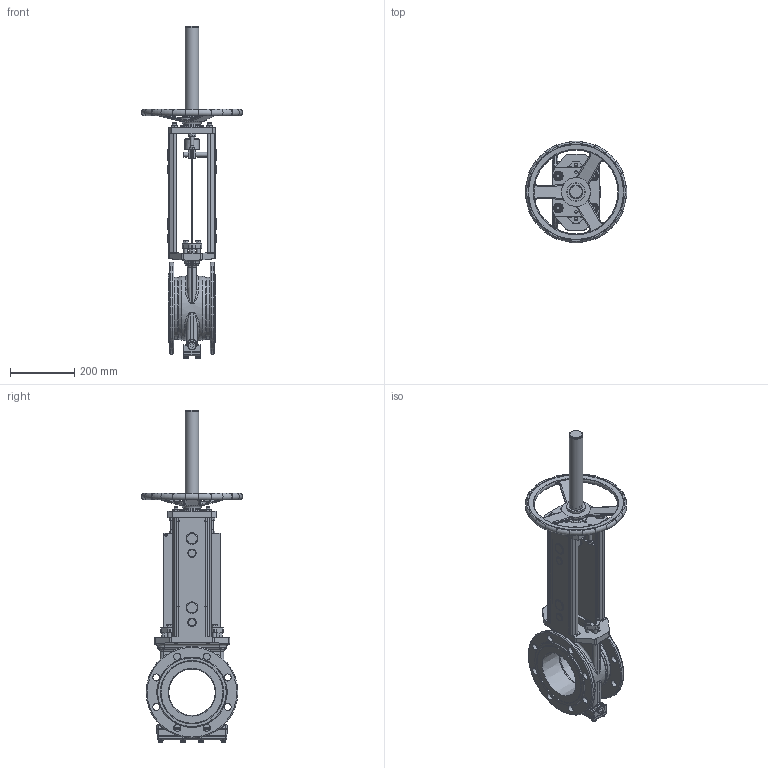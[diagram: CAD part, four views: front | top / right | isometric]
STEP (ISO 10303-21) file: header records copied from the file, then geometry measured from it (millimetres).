
FILE_DESCRIPTION(/* description */ (''),/* implementation_level */ '2;1');
FILE_NAME(/* name */ 'F:\3D-block färdiga för export\SLV-SLF\DN 150\SLF-DN150-PN10-HW-Rising_stem.stp',/* time_stamp */ '2014-07-02T14:01:25+02:00',/* author */ ('emimus'),/* organization */ (''),/* preprocessor_version */ 'ST-DEVELOPER v15.6',/* originating_system */ 'Autodesk Inventor 2015',/* authorisation */ '');
FILE_SCHEMA (('CONFIG_CONTROL_DESIGN'));
Length unit declared in the file: millimetre
Products named in the file (2): 17; SLF-DN150-PN10-HW-Rising_stem
Bounding box: 316.7 x 316.7 x 1033.15 mm (x, y, z)
Volume: 7041457.9 mm3; surface area: 1346091.2 mm2
Topology: 1 solids, 1 shells, 1348 faces, 3377 edges, 2096 vertices
Faces by surface type: plane 568, cylinder 316, cone 258, bspline 102, torus 92, sphere 12
Full cylindrical faces by diameter (mm): 3.7 x8, 4 x2, 5 x4, 7 x1, 8.5 x2, 10 x10, 10.5 x4, 12 x10, 13 x3, 13.435 x4, 14 x4, 15 x4, 16 x8, 18 x4, 18.5 x1, 18.6 x1, 20 x4, 20.3 x1, 22 x16, 23 x4, 24 x2, 25.14 x4, 26 x6, 30 x4, 32 x1, 36 x4, 37.2 x1, 38.5 x1, 41.5 x1, 41.9 x1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
Entity records: 57003 total; most frequent: CARTESIAN_POINT 27112, DIRECTION 6219, ORIENTED_EDGE 6106, EDGE_CURVE 3052, AXIS2_PLACEMENT_3D 2565, VERTEX_POINT 1988, EDGE_LOOP 1752, FACE_OUTER_BOUND 1348
